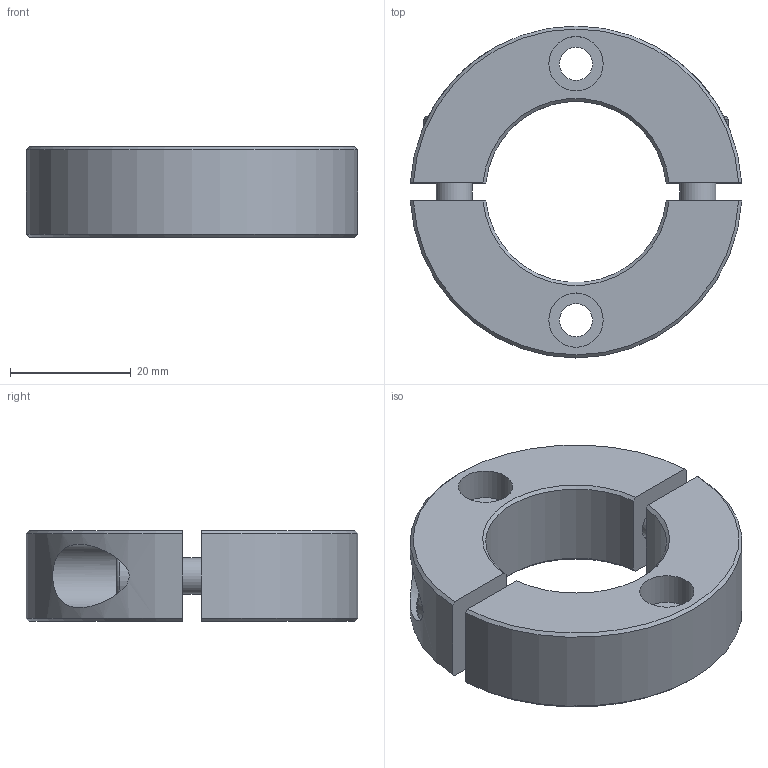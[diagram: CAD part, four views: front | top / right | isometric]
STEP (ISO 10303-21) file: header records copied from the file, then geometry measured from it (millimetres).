
FILE_DESCRIPTION( ( 'STEP AP203' ), '1' );
FILE_NAME( 'C:/Temp/Ganter_Step_05_03_2020/data/3_2/gn7072_2/Split Stainless Steel-Set collar GN 7072.2-55-B30-NI-B.stp', '2020-03-13T05:41:00', ( 'License CC BY-ND 4.0' ), ( 'CADENAS' ), ' ', 'PARTsolutions', ' ' );
FILE_SCHEMA( ( 'CONFIG_CONTROL_DESIGN' ) );
Length unit declared in the file: millimetre
Products named in the file (1): _Split Stainless Steel-Set collar GN 7072.2-55-B30-NI-B
Bounding box: 54.92 x 55 x 15 mm (x, y, z)
Volume: 21562.2 mm3; surface area: 9692.4 mm2
Topology: 1 solids, 1 shells, 56 faces, 131 edges, 89 vertices
Faces by surface type: plane 30, cylinder 16, cone 8, torus 2
Full cylindrical faces by diameter (mm): 5.5 x2, 6 x2, 6.4 x2, 9 x2, 10 x2, 10.5 x2
Entity records: 1712 total; most frequent: CARTESIAN_POINT 459, DIRECTION 246, ORIENTED_EDGE 220, EDGE_CURVE 110, AXIS2_PLACEMENT_3D 97, EDGE_LOOP 88, VERTEX_POINT 82, FACE_OUTER_BOUND 70
